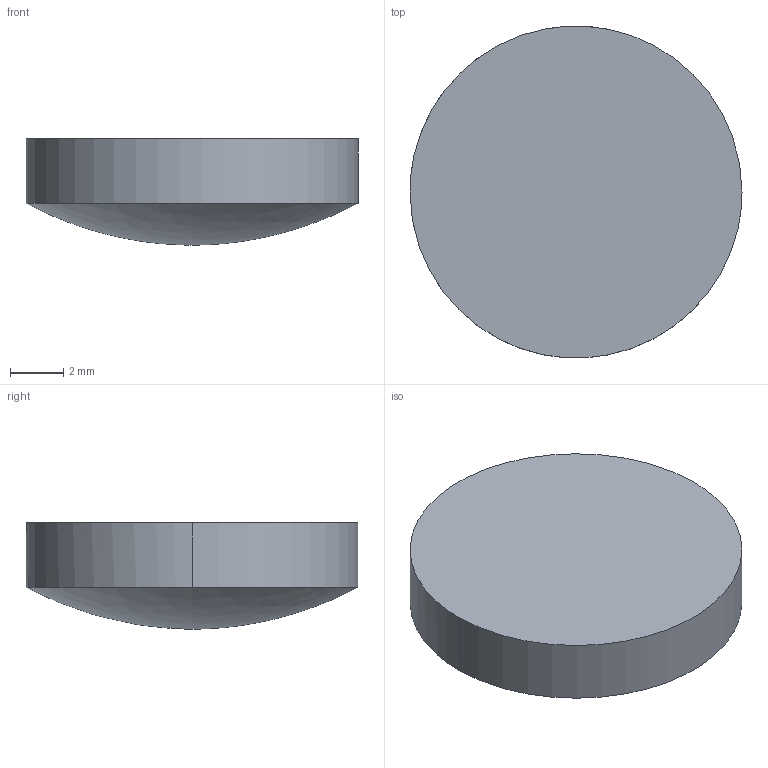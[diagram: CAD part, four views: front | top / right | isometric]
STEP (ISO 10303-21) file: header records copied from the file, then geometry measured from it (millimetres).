
FILE_DESCRIPTION ((), '1');
FILE_NAME ('\\fileserver\Daten\Applikationen\Optikdesign\SPA-Design\aktuelle SPA-Designs\Linsenkataloge - 2016-Juni\Zemax\ALL\ALL12-25.STP', '2016-05-24T14:20:33', ('Unknown'), ('Unknown'), 'HarmonyWare STEP v2.0.1', 'HarmonyWare Translators', '');
FILE_SCHEMA (('CONFIG_CONTROL_DESIGN'));
Length unit declared in the file: millimetre
Products named in the file (1): NONE
Bounding box: 12.5 x 12.49 x 4 mm (x, y, z)
Volume: 395.8 mm3; surface area: 348.7 mm2
Topology: 1 solids, 1 shells, 4 faces, 9 edges, 6 vertices
Faces by surface type: cylinder 2, bspline 1, plane 1
Entity records: 265 total; most frequent: CARTESIAN_POINT 114, ORIENTED_EDGE 16, EDGE_CURVE 8, PERSON 8, ORGANIZATION 8, PERSON_AND_ORGANIZATION 8, VERTEX_POINT 6, DIRECTION 6
